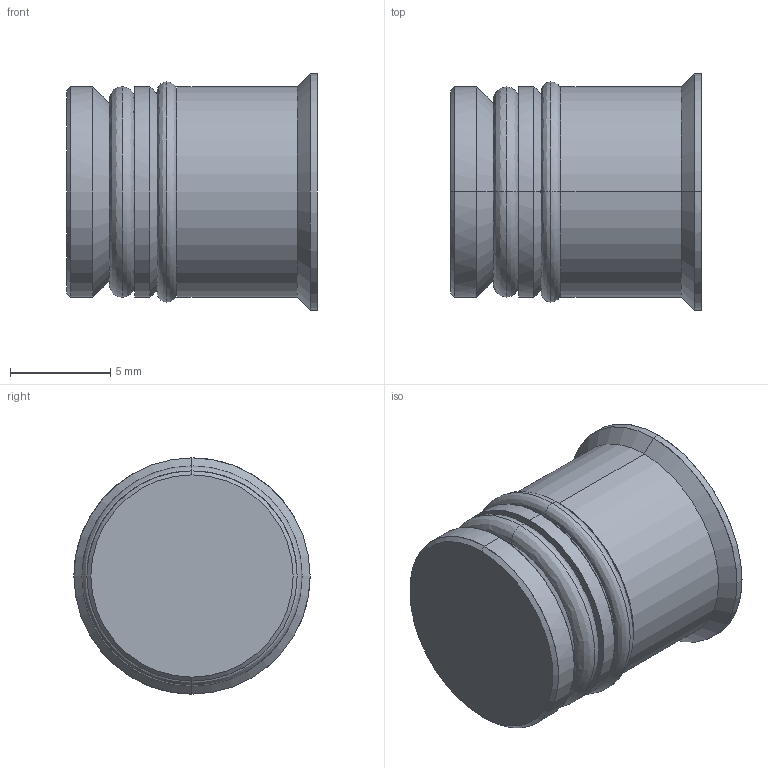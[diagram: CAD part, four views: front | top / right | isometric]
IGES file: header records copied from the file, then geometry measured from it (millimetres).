
Start section: START RECORD GO HERE.
Global section: file name: TR-10.igs; native system: DASSAULT SYSTEMES CATIA V5 R20 - www.3ds.com; preprocessor: CATIA Version 5 Release 20 ; author: Utente; organization: NB04-ASUS; date: 20210223.202203; units: millimetre
Bounding box: 12.5 x 11.8 x 11.8 mm (x, y, z)
Surface area: 866.8 mm2 (no closed solid volume)
Topology: 0 solids, 0 shells, 47 faces, 264 edges, 264 vertices
Faces by surface type: revolution 28, plane 19
